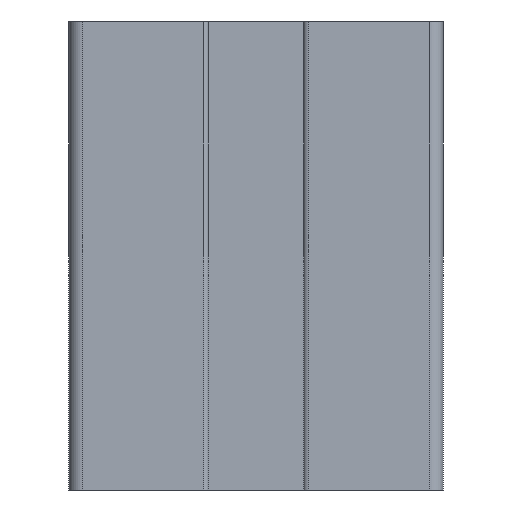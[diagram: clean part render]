
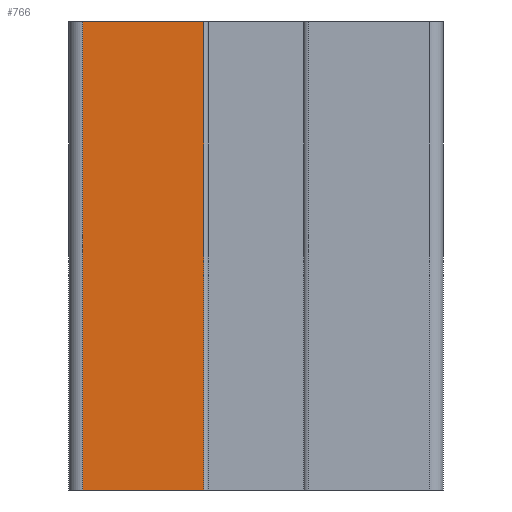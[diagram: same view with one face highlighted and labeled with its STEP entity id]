
A CAD part, front view. The second image highlights one B-rep face of the part: STEP entity #766.
In plain terms, the highlighted planar face has unit normal (0, -1, 0).
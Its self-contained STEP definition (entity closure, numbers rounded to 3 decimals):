
#766=ADVANCED_FACE('',(#1723),#1724,.F.);
#1723=FACE_OUTER_BOUND('',#2868,.T.);
#1724=PLANE('',#2869);
#2868=EDGE_LOOP('',(#5287,#5288,#5289,#5290));
#2869=AXIS2_PLACEMENT_3D('',#5291,#5292,#5293);
#5287=ORIENTED_EDGE('',*,*,#8132,.T.);
#5288=ORIENTED_EDGE('',*,*,#7784,.F.);
#5289=ORIENTED_EDGE('',*,*,#8166,.F.);
#5290=ORIENTED_EDGE('',*,*,#8167,.T.);
#5291=CARTESIAN_POINT('',(1.5,0.,50.0));
#5292=DIRECTION('',(0.0,1.0,0.0));
#5293=DIRECTION('',(0.0,0.0,-1.0));
#7784=EDGE_CURVE('',#9716,#9714,#9718,.T.);
#8132=EDGE_CURVE('',#10250,#9714,#10251,.T.);
#8166=EDGE_CURVE('',#10296,#9716,#10297,.T.);
#8167=EDGE_CURVE('',#10296,#10250,#10298,.T.);
#9714=VERTEX_POINT('',#12301);
#9716=VERTEX_POINT('',#12303);
#9718=LINE('',#12305,#12306);
#10250=VERTEX_POINT('',#13002);
#10251=LINE('',#13003,#13004);
#10296=VERTEX_POINT('',#13066);
#10297=LINE('',#13067,#13068);
#10298=LINE('',#13069,#13070);
#12301=CARTESIAN_POINT('',(14.4,0.,0.0));
#12303=CARTESIAN_POINT('',(14.4,0.,50.0));
#12305=CARTESIAN_POINT('',(14.4,0.,50.0));
#12306=VECTOR('',#14567,1.0);
#13002=CARTESIAN_POINT('',(1.5,0.,0.0));
#13003=CARTESIAN_POINT('',(1.5,0.,0.0));
#13004=VECTOR('',#15167,1.0);
#13066=CARTESIAN_POINT('',(1.5,0.,50.0));
#13067=CARTESIAN_POINT('',(1.5,0.,50.0));
#13068=VECTOR('',#15200,1.0);
#13069=CARTESIAN_POINT('',(1.5,0.,50.0));
#13070=VECTOR('',#15201,1.0);
#14567=DIRECTION('',(0.0,0.0,-1.0));
#15167=DIRECTION('',(1.0,0.0,0.0));
#15200=DIRECTION('',(1.0,0.0,0.0));
#15201=DIRECTION('',(0.0,0.0,-1.0));
